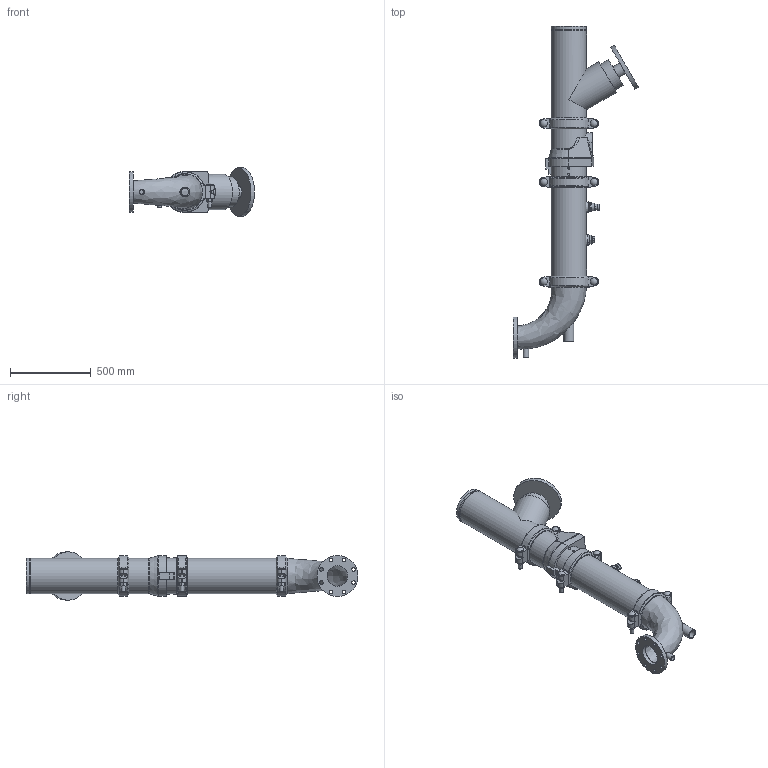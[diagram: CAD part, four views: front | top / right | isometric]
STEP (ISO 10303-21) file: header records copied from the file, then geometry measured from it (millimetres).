
FILE_DESCRIPTION(/* description */ ('VIC DVI PUMP DROP HORZ S/383 (OGSxFLG) (S/924-0.75)','CAx-IF Rec.Pracs.---Representation and Presentation of Product Manufacturing Information (PMI)---4.0---2014-10-13'),/* implementation_level */ '2;1');
FILE_NAME(/* name */ 'C:\Users\kkamble\AppData\Roaming\Autodesk\ApplicationPlugins\Victaulic.Temp\A821\CL 150_Series 383 (OGSxFLG)_924 (0.75)_08.0x05.0 (200x125).stp',/* time_stamp */ '2022-03-16T18:46:49+05:00',/* author */ ('kkamble'),/* organization */ ('Victaulic'),/* preprocessor_version */ 'ST-DEVELOPER v17.2',/* originating_system */ 'Autodesk Inventor 2019',/* authorisation */ '');
FILE_SCHEMA (('AP242_MANAGED_MODEL_BASED_3D_ENGINEERING_MIM_LF { 1 0 10303 442 1 1 4 }'));
Length unit declared in the file: inch
Products named in the file (8): 383_924 (0.75)-08.0x05.0; Pipe-08.0; 789-08.0; 177N-08.0; 779-08.0; 924-04.0x0.75; 923-04.0x0.75; R100F-08.0x05.0
Assembly tree (9 placements, depth 2):
  383_924 (0.75)-08.0x05.0
    177N-08.0  x3
    Pipe-08.0
    789-08.0
    779-08.0
    924-04.0x0.75
    923-04.0x0.75
    R100F-08.0x05.0
Bounding box: 774.7 x 2057.4 x 299.97 mm (x, y, z)
Volume: 28757626.2 mm3; surface area: 3912718.4 mm2
Topology: 9 solids, 9 shells, 517 faces, 1357 edges, 911 vertices
Faces by surface type: plane 296, cylinder 174, torus 18, cone 17, sphere 6, bspline 6
Full cylindrical faces by diameter (mm): 13.716 x4, 22.352 x8, 23.774 x6, 26.67 x3, 34.29 x1, 38.608 x1, 42.85 x6, 45.974 x4, 48.26 x1, 55.626 x2, 60.96 x1, 76.2 x1, 128.194 x1, 183.515 x1, 202.717 x4, 206.375 x3, 214.401 x7, 219.075 x18, 254 x1, 299.974 x1
Entity records: 12502 total; most frequent: CARTESIAN_POINT 3485, DIRECTION 1841, ORIENTED_EDGE 1694, EDGE_CURVE 847, AXIS2_PLACEMENT_3D 709, VERTEX_POINT 575, LINE 423, VECTOR 423
